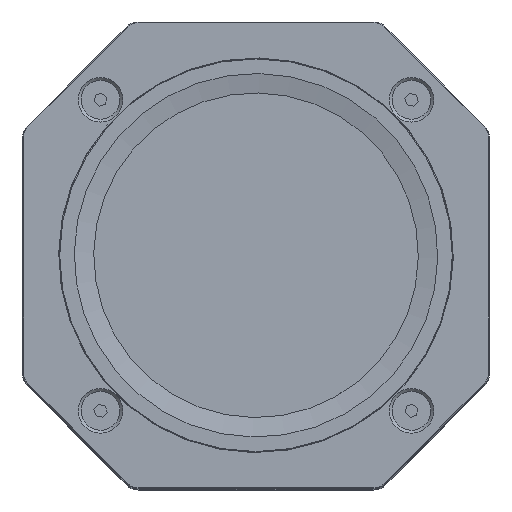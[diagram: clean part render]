
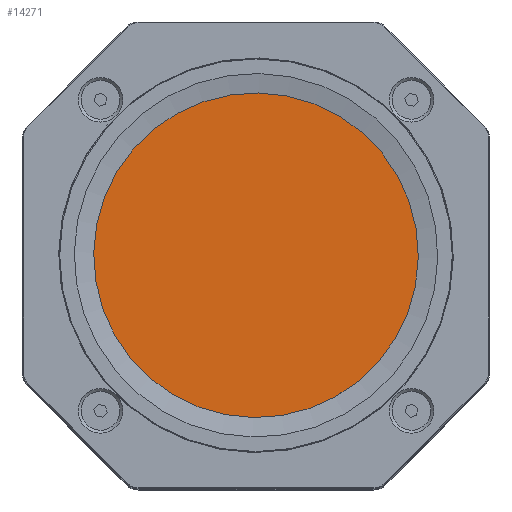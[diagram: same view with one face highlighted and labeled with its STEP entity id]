
A CAD part, top view. The second image highlights one B-rep face of the part: STEP entity #14271.
In plain terms, the highlighted planar face has unit normal (0, 0, 1) as drawn and (0, 1, 0) by its records, which use the part's own axes.
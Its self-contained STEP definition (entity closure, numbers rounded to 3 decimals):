
#1577=FACE_OUTER_BOUND('',#2434,.T.);
#2434=EDGE_LOOP('',(#12830));
#5666=CIRCLE('',#16136,42.75);
#6931=VERTEX_POINT('',#25757);
#8921=EDGE_CURVE('',#6931,#6931,#5666,.T.);
#12830=ORIENTED_EDGE('',*,*,#8921,.T.);
#13550=PLANE('',#16138);
#14271=ADVANCED_FACE('',(#1577),#13550,.T.);
#16136=AXIS2_PLACEMENT_3D('',#25758,#20231,#20232);
#16138=AXIS2_PLACEMENT_3D('',#25762,#20236,#20237);
#20231=DIRECTION('center_axis',(0.,1.,0.));
#20232=DIRECTION('ref_axis',(-1.,0.,0.));
#20236=DIRECTION('center_axis',(0.,1.,0.));
#20237=DIRECTION('ref_axis',(0.,0.,1.));
#25757=CARTESIAN_POINT('',(42.75,3.5,0.));
#25758=CARTESIAN_POINT('Origin',(0.,3.5,0.));
#25762=CARTESIAN_POINT('Origin',(0.,3.5,0.));
